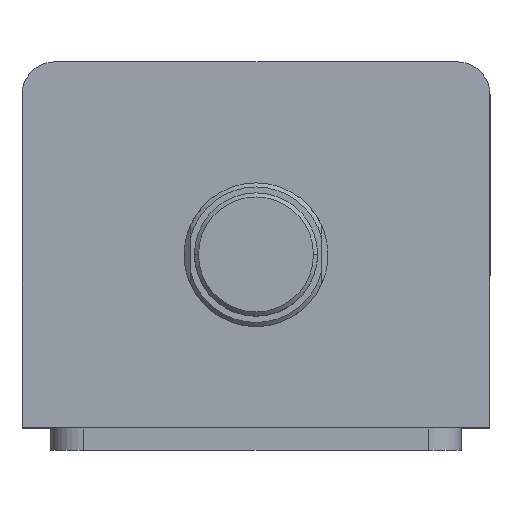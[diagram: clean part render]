
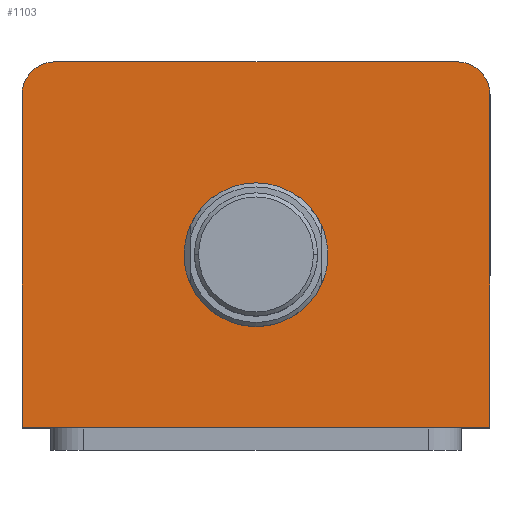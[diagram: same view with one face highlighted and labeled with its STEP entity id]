
A CAD part, top view. The second image highlights one B-rep face of the part: STEP entity #1103.
In plain terms, the highlighted planar face has unit normal (0, 0, 1).
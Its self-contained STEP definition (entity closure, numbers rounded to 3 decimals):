
#70 = FACE_BOUND ( 'NONE', #1063, .T. ) ;
#97 = VECTOR ( 'NONE', #893, 1000. ) ;
#102 = LINE ( 'NONE', #895, #97 ) ;
#392 = DIRECTION ( 'NONE',  ( 1., 0., 0. ) ) ;
#395 = DIRECTION ( 'NONE',  ( 0., 0., 1. ) ) ;
#399 = CARTESIAN_POINT ( 'NONE',  ( 0., 0., 132. ) ) ;
#401 = PLANE ( 'NONE',  #1994 ) ;
#541 = EDGE_CURVE ( 'NONE', #1761, #1666, #102, .T. ) ;
#893 = DIRECTION ( 'NONE',  ( -1., 0., 0. ) ) ;
#895 = CARTESIAN_POINT ( 'NONE',  ( -57., 44.5, 132. ) ) ;
#1063 = EDGE_LOOP ( 'NONE', ( #3649, #3650 ) ) ;
#1065 = EDGE_LOOP ( 'NONE', ( #3651, #3652, #3653, #3654, #3655, #3656 ) ) ;
#1103 = ADVANCED_FACE ( 'NONE', ( #70, #3587 ), #401, .T. ) ;
#1375 = EDGE_CURVE ( 'NONE', #1806, #1678, #2961, .T. ) ;
#1382 = EDGE_CURVE ( 'NONE', #1670, #1684, #2972, .T. ) ;
#1435 = CARTESIAN_POINT ( 'NONE',  ( 49., 44.5, 132. ) ) ;
#1461 = CARTESIAN_POINT ( 'NONE',  ( -57., 36.5, 132. ) ) ;
#1486 = CARTESIAN_POINT ( 'NONE',  ( -17.5, -2.5, 132. ) ) ;
#1544 = CARTESIAN_POINT ( 'NONE',  ( 57., 36.5, 132. ) ) ;
#1575 = EDGE_CURVE ( 'NONE', #1684, #2260, #2984, .T. ) ;
#1589 = EDGE_CURVE ( 'NONE', #2260, #1761, #2991, .T. ) ;
#1598 = EDGE_CURVE ( 'NONE', #1666, #1706, #3004, .T. ) ;
#1602 = EDGE_CURVE ( 'NONE', #1706, #1670, #3010, .T. ) ;
#1610 = EDGE_CURVE ( 'NONE', #1678, #1806, #3024, .T. ) ;
#1666 = VERTEX_POINT ( 'NONE', #2433 ) ;
#1670 = VERTEX_POINT ( 'NONE', #2429 ) ;
#1678 = VERTEX_POINT ( 'NONE', #2417 ) ;
#1684 = VERTEX_POINT ( 'NONE', #2408 ) ;
#1706 = VERTEX_POINT ( 'NONE', #1461 ) ;
#1761 = VERTEX_POINT ( 'NONE', #1435 ) ;
#1806 = VERTEX_POINT ( 'NONE', #1486 ) ;
#1994 = AXIS2_PLACEMENT_3D ( 'NONE', #399, #395, #392 ) ;
#2223 = AXIS2_PLACEMENT_3D ( 'NONE', #2519, #2518, #2513 ) ;
#2244 = AXIS2_PLACEMENT_3D ( 'NONE', #2595, #2594, #2593 ) ;
#2257 = AXIS2_PLACEMENT_3D ( 'NONE', #2556, #2555, #2553 ) ;
#2260 = VERTEX_POINT ( 'NONE', #1544 ) ;
#2267 = AXIS2_PLACEMENT_3D ( 'NONE', #2510, #2509, #2508 ) ;
#2407 = DIRECTION ( 'NONE',  ( 0., 1., 0. ) ) ;
#2408 = CARTESIAN_POINT ( 'NONE',  ( 57., -44.5, 132. ) ) ;
#2413 = CARTESIAN_POINT ( 'NONE',  ( 57., 44.5, 132. ) ) ;
#2417 = CARTESIAN_POINT ( 'NONE',  ( 17.5, -2.5, 132. ) ) ;
#2429 = CARTESIAN_POINT ( 'NONE',  ( -57., -44.5, 132. ) ) ;
#2433 = CARTESIAN_POINT ( 'NONE',  ( -49., 44.5, 132. ) ) ;
#2461 = DIRECTION ( 'NONE',  ( 1., 0., 0. ) ) ;
#2463 = CARTESIAN_POINT ( 'NONE',  ( -57., -44.5, 132. ) ) ;
#2508 = DIRECTION ( 'NONE',  ( 1., 0., 0. ) ) ;
#2509 = DIRECTION ( 'NONE',  ( 0., 0., 1. ) ) ;
#2510 = CARTESIAN_POINT ( 'NONE',  ( 0., -2.5, 132. ) ) ;
#2513 = DIRECTION ( 'NONE',  ( 1., 0., 0. ) ) ;
#2518 = DIRECTION ( 'NONE',  ( 0., 0., 1. ) ) ;
#2519 = CARTESIAN_POINT ( 'NONE',  ( 0., -2.5, 132. ) ) ;
#2541 = DIRECTION ( 'NONE',  ( 0., -1., 0. ) ) ;
#2542 = CARTESIAN_POINT ( 'NONE',  ( -57., 44.5, 132. ) ) ;
#2553 = DIRECTION ( 'NONE',  ( 1., 0., 0. ) ) ;
#2555 = DIRECTION ( 'NONE',  ( 0., 0., 1. ) ) ;
#2556 = CARTESIAN_POINT ( 'NONE',  ( -49., 36.5, 132. ) ) ;
#2593 = DIRECTION ( 'NONE',  ( 1., 0., 0. ) ) ;
#2594 = DIRECTION ( 'NONE',  ( 0., 0., 1. ) ) ;
#2595 = CARTESIAN_POINT ( 'NONE',  ( 49., 36.5, 132. ) ) ;
#2961 = CIRCLE ( 'NONE', #2223, 17.5 ) ;
#2972 = LINE ( 'NONE', #2463, #2975 ) ;
#2975 = VECTOR ( 'NONE', #2461, 1000. ) ;
#2984 = LINE ( 'NONE', #2413, #2987 ) ;
#2987 = VECTOR ( 'NONE', #2407, 1000. ) ;
#2991 = CIRCLE ( 'NONE', #2244, 8. ) ;
#3004 = CIRCLE ( 'NONE', #2257, 8. ) ;
#3010 = LINE ( 'NONE', #2542, #3013 ) ;
#3013 = VECTOR ( 'NONE', #2541, 1000. ) ;
#3024 = CIRCLE ( 'NONE', #2267, 17.5 ) ;
#3587 = FACE_OUTER_BOUND ( 'NONE', #1065, .T. ) ;
#3649 = ORIENTED_EDGE ( 'NONE', *, *, #1610, .F. ) ;
#3650 = ORIENTED_EDGE ( 'NONE', *, *, #1375, .F. ) ;
#3651 = ORIENTED_EDGE ( 'NONE', *, *, #541, .T. ) ;
#3652 = ORIENTED_EDGE ( 'NONE', *, *, #1598, .T. ) ;
#3653 = ORIENTED_EDGE ( 'NONE', *, *, #1602, .T. ) ;
#3654 = ORIENTED_EDGE ( 'NONE', *, *, #1382, .T. ) ;
#3655 = ORIENTED_EDGE ( 'NONE', *, *, #1575, .T. ) ;
#3656 = ORIENTED_EDGE ( 'NONE', *, *, #1589, .T. ) ;
